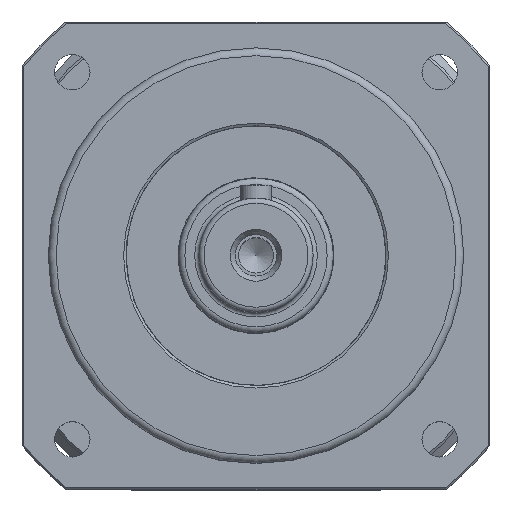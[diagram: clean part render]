
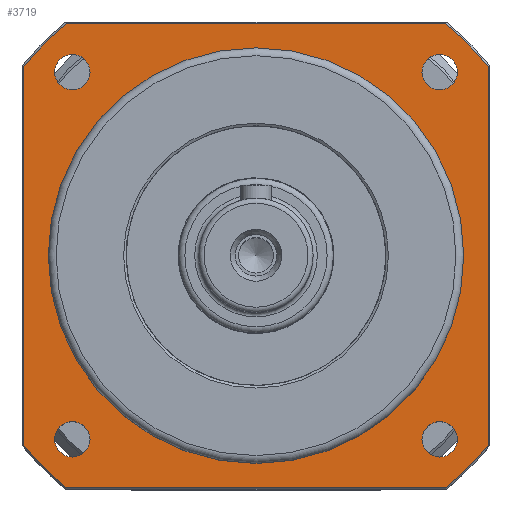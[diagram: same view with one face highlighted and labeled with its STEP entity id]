
A CAD part, top view. The second image highlights one B-rep face of the part: STEP entity #3719.
In plain terms, the highlighted planar face has unit normal (0, 0, 1).
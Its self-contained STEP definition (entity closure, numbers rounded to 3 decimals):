
#2213=CARTESIAN_POINT('',(-31.955,35.355,0.0));
#2214=VERTEX_POINT('',#2213);
#2215=CARTESIAN_POINT('',(-35.355,35.355,0.0));
#2216=DIRECTION('',(0.0,0.0,1.0));
#2217=DIRECTION('',(1.0,0.0,0.0));
#2218=AXIS2_PLACEMENT_3D('',#2215,#2216,#2217);
#2219=CIRCLE('',#2218,3.4);
#2220=EDGE_CURVE('',#2214,#2214,#2219,.T.);
#2241=CARTESIAN_POINT('',(-31.955,-35.355,0.0));
#2242=VERTEX_POINT('',#2241);
#2243=CARTESIAN_POINT('',(-35.355,-35.355,0.0));
#2244=DIRECTION('',(0.0,0.0,1.0));
#2245=DIRECTION('',(1.0,0.0,0.0));
#2246=AXIS2_PLACEMENT_3D('',#2243,#2244,#2245);
#2247=CIRCLE('',#2246,3.4);
#2248=EDGE_CURVE('',#2242,#2242,#2247,.T.);
#2269=CARTESIAN_POINT('',(38.755,-35.355,0.0));
#2270=VERTEX_POINT('',#2269);
#2271=CARTESIAN_POINT('',(35.355,-35.355,0.0));
#2272=DIRECTION('',(0.0,0.0,1.0));
#2273=DIRECTION('',(1.0,0.0,0.0));
#2274=AXIS2_PLACEMENT_3D('',#2271,#2272,#2273);
#2275=CIRCLE('',#2274,3.4);
#2276=EDGE_CURVE('',#2270,#2270,#2275,.T.);
#2297=CARTESIAN_POINT('',(38.755,35.355,0.0));
#2298=VERTEX_POINT('',#2297);
#2299=CARTESIAN_POINT('',(35.355,35.355,0.0));
#2300=DIRECTION('',(0.0,0.0,1.0));
#2301=DIRECTION('',(1.0,0.0,0.0));
#2302=AXIS2_PLACEMENT_3D('',#2299,#2300,#2301);
#2303=CIRCLE('',#2302,3.4);
#2304=EDGE_CURVE('',#2298,#2298,#2303,.T.);
#2317=CARTESIAN_POINT('',(-40.0,0.0,0.0));
#2318=VERTEX_POINT('',#2317);
#2319=CARTESIAN_POINT('',(0.0,0.0,0.0));
#2320=DIRECTION('',(0.0,0.0,1.0));
#2321=DIRECTION('',(1.0,0.0,0.0));
#2322=AXIS2_PLACEMENT_3D('',#2319,#2320,#2321);
#2323=CIRCLE('',#2322,40.0);
#2324=EDGE_CURVE('',#2318,#2318,#2323,.T.);
#3629=CARTESIAN_POINT('',(45.,-45.0,0.0));
#3630=DIRECTION('',(0.0,0.0,1.0));
#3631=DIRECTION('',(1.0,0.0,0.0));
#3632=AXIS2_PLACEMENT_3D('',#3629,#3630,#3631);
#3633=PLANE('',#3632);
#3634=CARTESIAN_POINT('',(-36.486,-44.7,0.0));
#3635=VERTEX_POINT('',#3634);
#3636=CARTESIAN_POINT('',(36.486,-44.7,0.0));
#3637=VERTEX_POINT('',#3636);
#3638=CARTESIAN_POINT('',(-36.486,-44.7,0.0));
#3639=DIRECTION('',(1.0,0.0,0.0));
#3640=VECTOR('',#3639,72.971);
#3641=LINE('',#3638,#3640);
#3642=EDGE_CURVE('',#3635,#3637,#3641,.T.);
#3643=ORIENTED_EDGE('',*,*,#3642,.T.);
#3644=CARTESIAN_POINT('',(44.7,-36.486,0.0));
#3645=VERTEX_POINT('',#3644);
#3646=CARTESIAN_POINT('',(0.0,0.0,0.0));
#3647=DIRECTION('',(0.0,0.0,1.0));
#3648=DIRECTION('',(1.0,0.0,0.0));
#3649=AXIS2_PLACEMENT_3D('',#3646,#3647,#3648);
#3650=CIRCLE('',#3649,57.7);
#3651=EDGE_CURVE('',#3637,#3645,#3650,.T.);
#3652=ORIENTED_EDGE('',*,*,#3651,.T.);
#3653=CARTESIAN_POINT('',(44.7,36.486,0.0));
#3654=VERTEX_POINT('',#3653);
#3655=CARTESIAN_POINT('',(44.7,-36.486,0.0));
#3656=DIRECTION('',(0.0,1.0,0.0));
#3657=VECTOR('',#3656,72.971);
#3658=LINE('',#3655,#3657);
#3659=EDGE_CURVE('',#3645,#3654,#3658,.T.);
#3660=ORIENTED_EDGE('',*,*,#3659,.T.);
#3661=CARTESIAN_POINT('',(36.486,44.7,0.0));
#3662=VERTEX_POINT('',#3661);
#3663=CARTESIAN_POINT('',(0.0,0.0,0.0));
#3664=DIRECTION('',(0.0,0.0,1.0));
#3665=DIRECTION('',(1.0,0.0,0.0));
#3666=AXIS2_PLACEMENT_3D('',#3663,#3664,#3665);
#3667=CIRCLE('',#3666,57.7);
#3668=EDGE_CURVE('',#3654,#3662,#3667,.T.);
#3669=ORIENTED_EDGE('',*,*,#3668,.T.);
#3670=CARTESIAN_POINT('',(-36.486,44.7,0.0));
#3671=VERTEX_POINT('',#3670);
#3672=CARTESIAN_POINT('',(36.486,44.7,0.0));
#3673=DIRECTION('',(-1.0,0.0,0.0));
#3674=VECTOR('',#3673,72.971);
#3675=LINE('',#3672,#3674);
#3676=EDGE_CURVE('',#3662,#3671,#3675,.T.);
#3677=ORIENTED_EDGE('',*,*,#3676,.T.);
#3678=CARTESIAN_POINT('',(-44.7,36.486,0.0));
#3679=VERTEX_POINT('',#3678);
#3680=CARTESIAN_POINT('',(0.0,0.0,0.0));
#3681=DIRECTION('',(0.0,0.0,1.0));
#3682=DIRECTION('',(1.0,0.0,0.0));
#3683=AXIS2_PLACEMENT_3D('',#3680,#3681,#3682);
#3684=CIRCLE('',#3683,57.7);
#3685=EDGE_CURVE('',#3671,#3679,#3684,.T.);
#3686=ORIENTED_EDGE('',*,*,#3685,.T.);
#3687=CARTESIAN_POINT('',(-44.7,-36.486,0.0));
#3688=VERTEX_POINT('',#3687);
#3689=CARTESIAN_POINT('',(-44.7,36.486,0.0));
#3690=DIRECTION('',(0.0,-1.0,0.0));
#3691=VECTOR('',#3690,72.971);
#3692=LINE('',#3689,#3691);
#3693=EDGE_CURVE('',#3679,#3688,#3692,.T.);
#3694=ORIENTED_EDGE('',*,*,#3693,.T.);
#3695=CARTESIAN_POINT('',(0.0,0.0,0.0));
#3696=DIRECTION('',(0.0,0.0,1.0));
#3697=DIRECTION('',(1.0,0.0,0.0));
#3698=AXIS2_PLACEMENT_3D('',#3695,#3696,#3697);
#3699=CIRCLE('',#3698,57.7);
#3700=EDGE_CURVE('',#3688,#3635,#3699,.T.);
#3701=ORIENTED_EDGE('',*,*,#3700,.T.);
#3702=EDGE_LOOP('',(#3643,#3652,#3660,#3669,#3677,#3686,#3694,#3701));
#3703=FACE_OUTER_BOUND('',#3702,.T.);
#3704=ORIENTED_EDGE('',*,*,#2220,.F.);
#3705=EDGE_LOOP('',(#3704));
#3706=FACE_BOUND('',#3705,.T.);
#3707=ORIENTED_EDGE('',*,*,#2248,.F.);
#3708=EDGE_LOOP('',(#3707));
#3709=FACE_BOUND('',#3708,.T.);
#3710=ORIENTED_EDGE('',*,*,#2276,.F.);
#3711=EDGE_LOOP('',(#3710));
#3712=FACE_BOUND('',#3711,.T.);
#3713=ORIENTED_EDGE('',*,*,#2304,.F.);
#3714=EDGE_LOOP('',(#3713));
#3715=FACE_BOUND('',#3714,.T.);
#3716=ORIENTED_EDGE('',*,*,#2324,.F.);
#3717=EDGE_LOOP('',(#3716));
#3718=FACE_BOUND('',#3717,.T.);
#3719=ADVANCED_FACE('',(#3703,#3706,#3709,#3712,#3715,#3718),#3633,.T.);
